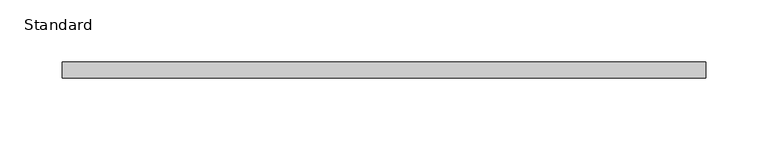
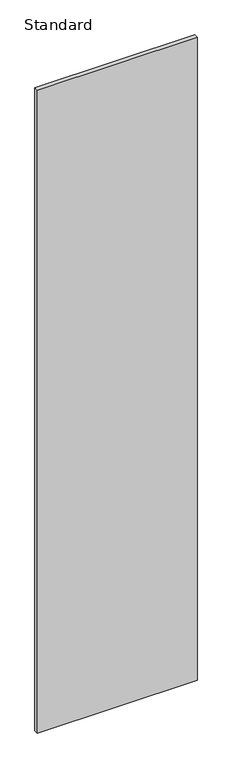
"""IFC4 building model written with IfcOpenShell, lengths in millimetres: furniture geometry, X_Partition-Compact Laminate-Duracube-Rectangular : Standard."""

from ifc_helpers import new_model, si_unit, frame, origin, place, context, project, spatial, polyline, outline, extrude, source, transform, mapped, element, save


def standard_f97d8a50(model_context):
    return source(origin(), model_context, "Body", "SweptSolid", [
        extrude(outline(polyline([(303.0753264, 0.0), (303.0753264, -13.0), (-213.6746736, -13.0), (-213.6746736, 0.0), (303.0753264, 0.0)])), frame((0.0, 0.0, 200.0), z_axis=(0.0, 0.0, 1.0), x_axis=(1.0, 0.0, 0.0)), (0.0, 0.0, 1.0), 2198.0),
    ])


if __name__ == "__main__":
    model = new_model("IFC4")
    model_context = context("Model", 3, world=origin())
    ifc_project = project(units=[si_unit("LENGTHUNIT", "METRE", prefix="MILLI")], contexts=[model_context])
    site = spatial("IfcSite", under=ifc_project)
    building = spatial("IfcBuilding", under=site)
    placement = place(None, origin())
    standard_shape = standard_f97d8a50(model_context)
    element("IfcFurniture", 1, ObjectType="X_Partition-Compact Laminate-Duracube-Rectangular : Standard", at=placement, inside=building, context=model_context, shape_type="MappedRepresentation", body=[
        mapped(standard_shape, transform((0.0, 0.0, 0.0), x_axis=(1.0, 0.0, 0.0), y_axis=(0.0, 1.0, 0.0), z_axis=(0.0, 0.0, 1.0))),
    ])
    save(model, "model.ifc")
